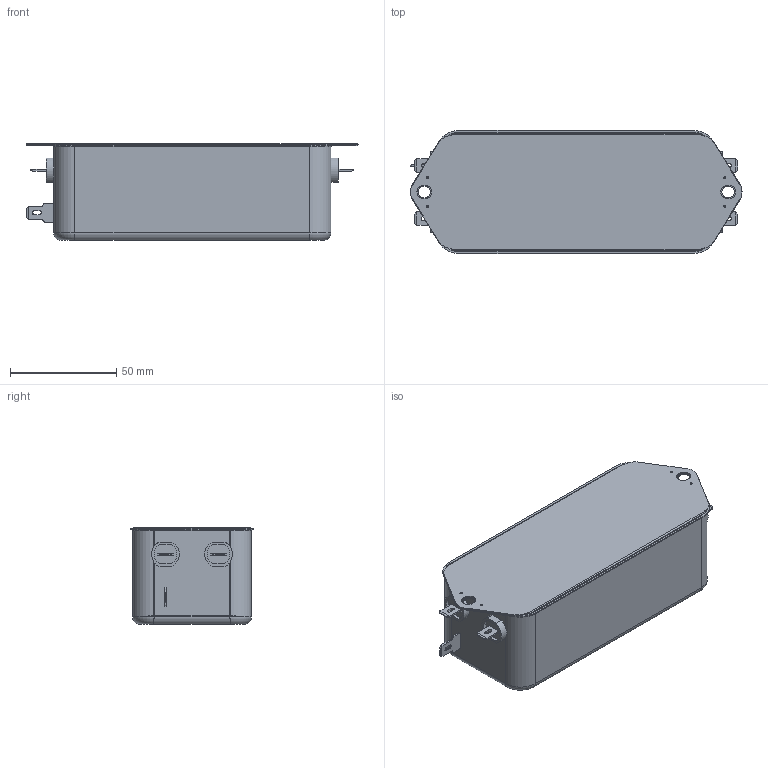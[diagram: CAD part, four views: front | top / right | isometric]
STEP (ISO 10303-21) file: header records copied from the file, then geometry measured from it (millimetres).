
FILE_DESCRIPTION((''),'2;1');
FILE_NAME('K:\Development\Product_FN\FN2080\FN2080-10-06 (291-611)\1_technical_file\3_technical_drawing\FN2080-10-06_包覆面提取_1.stp','2013-03-04T13:17:31',('Bin.Fan'),(''),'Autodesk Inventor 2010','Autodesk Inventor 2010','');
FILE_SCHEMA(('AUTOMOTIVE_DESIGN { 1 0 10303 214 1 1 1 1 }'));
Length unit declared in the file: millimetre
Products named in the file (1): FN2080-10-06_包覆面提取_1
Bounding box: 156.25 x 58 x 45.5 mm (x, y, z)
Volume: 325734.2 mm3; surface area: 56822.2 mm2
Topology: 1 solids, 5 shells, 462 faces, 1246 edges, 794 vertices
Faces by surface type: plane 280, cylinder 146, torus 20, bspline 8, cone 4, sphere 4
Entity records: 15013 total; most frequent: CARTESIAN_POINT 2851, DIRECTION 2476, ORIENTED_EDGE 2444, EDGE_CURVE 1222, VECTOR 842, LINE 842, AXIS2_PLACEMENT_3D 817, VERTEX_POINT 778
